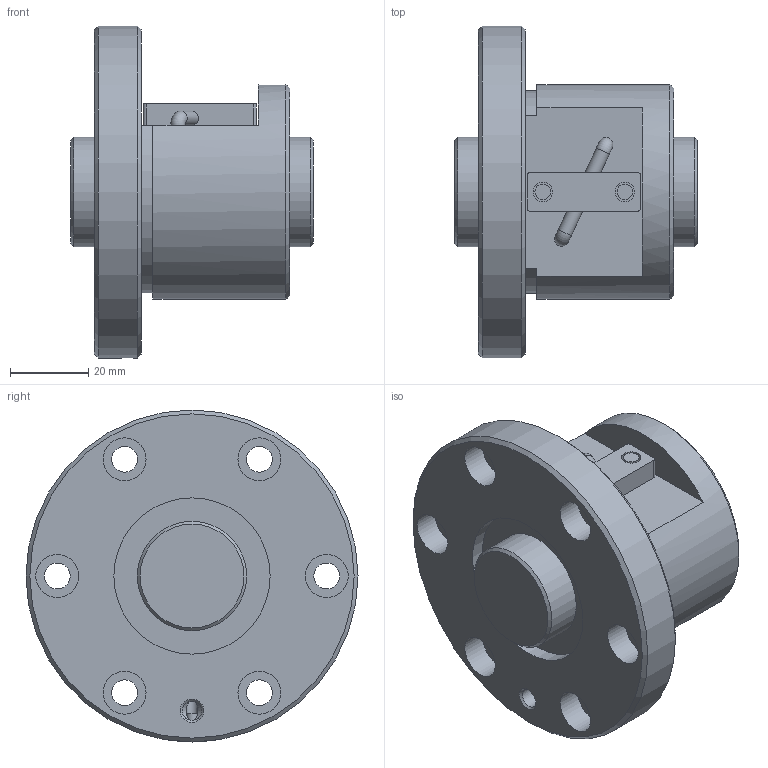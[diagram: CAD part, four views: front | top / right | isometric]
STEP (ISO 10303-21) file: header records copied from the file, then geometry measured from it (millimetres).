
FILE_DESCRIPTION(/* description */ ('STEP AP203'),/* implementation_level */ '2;1');
FILE_NAME(/* name */ 'BNF2806V-2.5RRG1+62LC0_000_rev',/* time_stamp */ '2024-08-06T07:30:44+02:00',/* author */ ('License CC BY-ND 4.0'),/* organization */ ('CADENAS'),/* preprocessor_version */ 'ST-DEVELOPER v19.3',/* originating_system */ 'PARTsolutions',/* authorisation */ ' ');
FILE_SCHEMA (('CONFIG_CONTROL_DESIGN'));
Length unit declared in the file: millimetre
Products named in the file (3): BNF2806V-2.5RRG1+62LC0_000_rev; BNF 2806-2.5RR000 Shaft; BNF 2806-2.5RR Nut
Assembly tree (2 placements, depth 2):
  BNF2806V-2.5RRG1+62LC0_000_rev
    BNF 2806-2.5RR000 Shaft
    BNF 2806-2.5RR Nut
Bounding box: 62 x 85 x 85 mm (x, y, z)
Volume: 147361.7 mm3; surface area: 34196.3 mm2
Topology: 2 solids, 2 shells, 70 faces, 152 edges, 99 vertices
Faces by surface type: cylinder 33, plane 27, cone 8, torus 2
Full cylindrical faces by diameter (mm): 3 x2, 3.665 x2, 4 x2, 4.917 x1, 5 x2, 6.6 x6, 11 x6, 28 x2, 40 x2, 55 x1, 85 x1
Entity records: 1803 total; most frequent: DIRECTION 316, CARTESIAN_POINT 313, ORIENTED_EDGE 210, AXIS2_PLACEMENT_3D 146, EDGE_LOOP 140, FACE_BOUND 140, EDGE_CURVE 105, VERTEX_POINT 89
